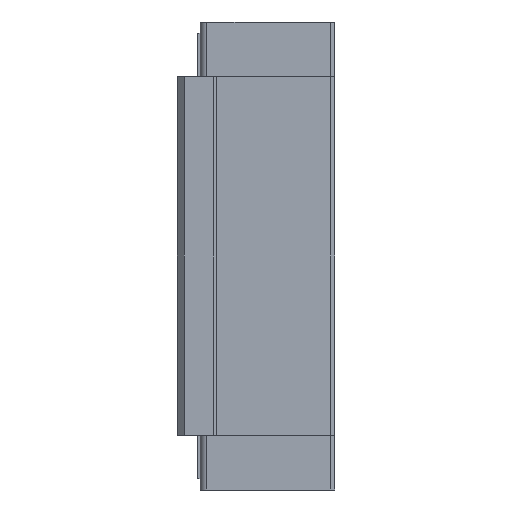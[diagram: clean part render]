
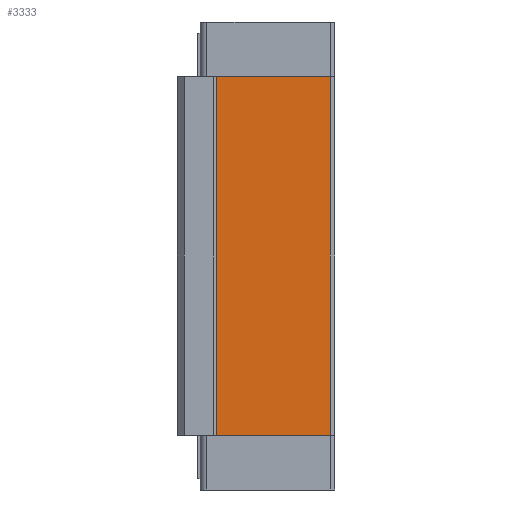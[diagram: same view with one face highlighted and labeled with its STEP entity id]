
A CAD part, left-side view. The second image highlights one B-rep face of the part: STEP entity #3333.
In plain terms, the highlighted planar face has unit normal (-1, 0, 0).
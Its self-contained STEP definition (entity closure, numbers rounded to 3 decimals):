
#55 = CARTESIAN_POINT ( 'NONE',  ( -23.5, 6.5, -39.3 ) ) ;
#520 = DIRECTION ( 'NONE',  ( 0., 0., -1. ) ) ;
#541 = DIRECTION ( 'NONE',  ( 1., 0., 0. ) ) ;
#561 = PLANE ( 'NONE',  #6594 ) ;
#604 = DIRECTION ( 'NONE',  ( 0., -1., 0. ) ) ;
#700 = VERTEX_POINT ( 'NONE', #9243 ) ;
#845 = CARTESIAN_POINT ( 'NONE',  ( -23.5, 0., -39.3 ) ) ;
#969 = DIRECTION ( 'NONE',  ( 0., 0., -1. ) ) ;
#984 = VERTEX_POINT ( 'NONE', #6818 ) ;
#1548 = CARTESIAN_POINT ( 'NONE',  ( -23.5, 5.5, -48.8 ) ) ;
#1733 = EDGE_LOOP ( 'NONE', ( #4189, #6405, #6041, #8504 ) ) ;
#2101 = VERTEX_POINT ( 'NONE', #4423 ) ;
#2149 = VECTOR ( 'NONE', #604, 1000. ) ;
#3333 = ADVANCED_FACE ( 'NONE', ( #5180 ), #561, .F. ) ;
#3571 = EDGE_CURVE ( 'NONE', #700, #2101, #4065, .T. ) ;
#3927 = LINE ( 'NONE', #8272, #5182 ) ;
#4037 = VECTOR ( 'NONE', #7616, 1000. ) ;
#4065 = LINE ( 'NONE', #7735, #4037 ) ;
#4189 = ORIENTED_EDGE ( 'NONE', *, *, #7678, .F. ) ;
#4423 = CARTESIAN_POINT ( 'NONE',  ( -23.5, 31.5, 39.3 ) ) ;
#4449 = VERTEX_POINT ( 'NONE', #55 ) ;
#4670 = CARTESIAN_POINT ( 'NONE',  ( -23.5, 6.5, -48.8 ) ) ;
#5180 = FACE_OUTER_BOUND ( 'NONE', #1733, .T. ) ;
#5182 = VECTOR ( 'NONE', #7021, 1000. ) ;
#6041 = ORIENTED_EDGE ( 'NONE', *, *, #7353, .T. ) ;
#6405 = ORIENTED_EDGE ( 'NONE', *, *, #3571, .F. ) ;
#6594 = AXIS2_PLACEMENT_3D ( 'NONE', #1548, #541, #520 ) ;
#6754 = EDGE_CURVE ( 'NONE', #984, #4449, #8413, .T. ) ;
#6818 = CARTESIAN_POINT ( 'NONE',  ( -23.5, 6.5, 39.3 ) ) ;
#7021 = DIRECTION ( 'NONE',  ( 0., -1., 0. ) ) ;
#7353 = EDGE_CURVE ( 'NONE', #700, #4449, #8083, .T. ) ;
#7616 = DIRECTION ( 'NONE',  ( 0., 0., 1. ) ) ;
#7678 = EDGE_CURVE ( 'NONE', #2101, #984, #3927, .T. ) ;
#7735 = CARTESIAN_POINT ( 'NONE',  ( -23.5, 31.5, -48.8 ) ) ;
#8083 = LINE ( 'NONE', #845, #2149 ) ;
#8272 = CARTESIAN_POINT ( 'NONE',  ( -23.5, 0., 39.3 ) ) ;
#8405 = VECTOR ( 'NONE', #969, 1000. ) ;
#8413 = LINE ( 'NONE', #4670, #8405 ) ;
#8504 = ORIENTED_EDGE ( 'NONE', *, *, #6754, .F. ) ;
#9243 = CARTESIAN_POINT ( 'NONE',  ( -23.5, 31.5, -39.3 ) ) ;
